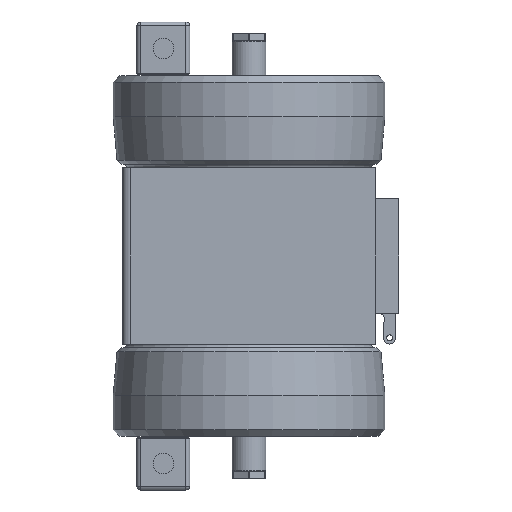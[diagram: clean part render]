
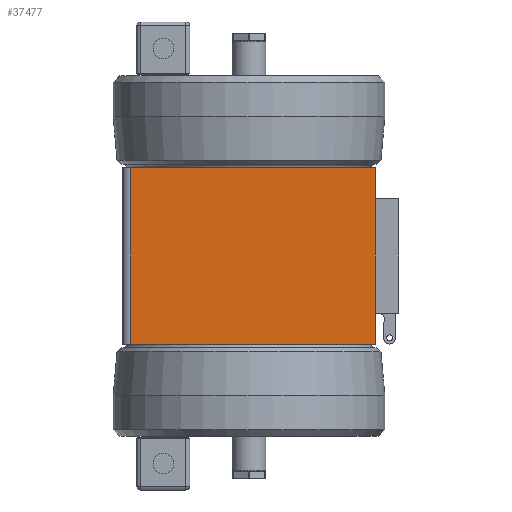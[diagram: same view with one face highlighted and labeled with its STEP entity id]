
A CAD part, left-side view. The second image highlights one B-rep face of the part: STEP entity #37477.
In plain terms, the highlighted planar face has unit normal (-1, 0, 0).
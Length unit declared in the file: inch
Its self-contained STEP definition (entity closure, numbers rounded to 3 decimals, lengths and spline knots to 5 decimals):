
#2024 = LINE ( 'NONE', #44496, #2028 ) ;
#2028 = VECTOR ( 'NONE', #44498, 39.37008 ) ;
#2217 = AXIS2_PLACEMENT_3D ( 'NONE', #32401, #32405, #32406 ) ;
#4082 = CARTESIAN_POINT ( 'NONE',  ( -4.0625, -4.0625, 2.82725 ) ) ;
#4088 = DIRECTION ( 'NONE',  ( 0., 0., -1. ) ) ;
#5983 = ORIENTED_EDGE ( 'NONE', *, *, #10013, .F. ) ;
#5985 = ORIENTED_EDGE ( 'NONE', *, *, #9672, .T. ) ;
#5987 = ORIENTED_EDGE ( 'NONE', *, *, #9138, .T. ) ;
#5989 = ORIENTED_EDGE ( 'NONE', *, *, #10407, .F. ) ;
#7268 = CARTESIAN_POINT ( 'NONE',  ( -4.0625, 3.8125, -2.82725 ) ) ;
#7323 = CARTESIAN_POINT ( 'NONE',  ( -4.0625, 3.8125, 2.82725 ) ) ;
#7422 = CARTESIAN_POINT ( 'NONE',  ( -4.0625, -4.0625, -2.82725 ) ) ;
#9138 = EDGE_CURVE ( 'NONE', #27126, #27071, #17780, .T. ) ;
#9672 = EDGE_CURVE ( 'NONE', #27071, #27225, #18819, .T. ) ;
#10013 = EDGE_CURVE ( 'NONE', #14604, #27225, #19548, .T. ) ;
#10407 = EDGE_CURVE ( 'NONE', #27126, #14604, #2024, .T. ) ;
#11524 = DIRECTION ( 'NONE',  ( 0., 0., -1. ) ) ;
#11547 = CARTESIAN_POINT ( 'NONE',  ( -4.0625, 3.8125, -2.82725 ) ) ;
#14604 = VERTEX_POINT ( 'NONE', #37128 ) ;
#16572 = EDGE_LOOP ( 'NONE', ( #5989, #5987, #5985, #5983 ) ) ;
#17400 = CARTESIAN_POINT ( 'NONE',  ( -4.0625, 4.0625, -2.82725 ) ) ;
#17406 = DIRECTION ( 'NONE',  ( 0., -1., 0. ) ) ;
#17780 = LINE ( 'NONE', #11547, #17787 ) ;
#17787 = VECTOR ( 'NONE', #11524, 39.37008 ) ;
#18819 = LINE ( 'NONE', #17400, #18825 ) ;
#18825 = VECTOR ( 'NONE', #17406, 39.37008 ) ;
#19548 = LINE ( 'NONE', #4082, #19552 ) ;
#19552 = VECTOR ( 'NONE', #4088, 39.37008 ) ;
#27071 = VERTEX_POINT ( 'NONE', #7268 ) ;
#27126 = VERTEX_POINT ( 'NONE', #7323 ) ;
#27225 = VERTEX_POINT ( 'NONE', #7422 ) ;
#32399 = PLANE ( 'NONE',  #2217 ) ;
#32401 = CARTESIAN_POINT ( 'NONE',  ( -4.0625, 4.0625, 2.82725 ) ) ;
#32405 = DIRECTION ( 'NONE',  ( 1., 0., 0. ) ) ;
#32406 = DIRECTION ( 'NONE',  ( 0., 1., 0. ) ) ;
#34926 = FACE_OUTER_BOUND ( 'NONE', #16572, .T. ) ;
#37128 = CARTESIAN_POINT ( 'NONE',  ( -4.0625, -4.0625, 2.82725 ) ) ;
#37477 = ADVANCED_FACE ( 'NONE', ( #34926 ), #32399, .F. ) ;
#44496 = CARTESIAN_POINT ( 'NONE',  ( -4.0625, 4.0625, 2.82725 ) ) ;
#44498 = DIRECTION ( 'NONE',  ( 0., -1., 0. ) ) ;
